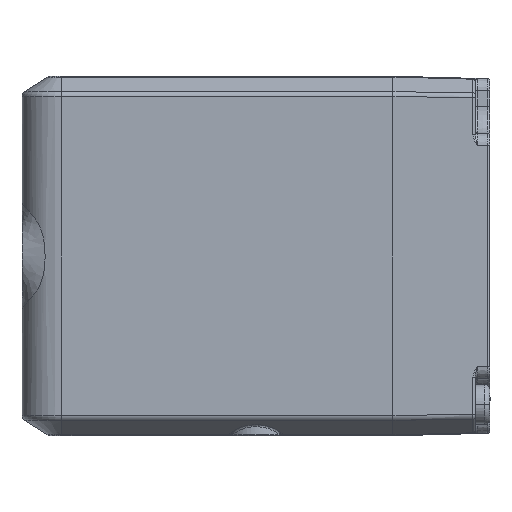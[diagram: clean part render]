
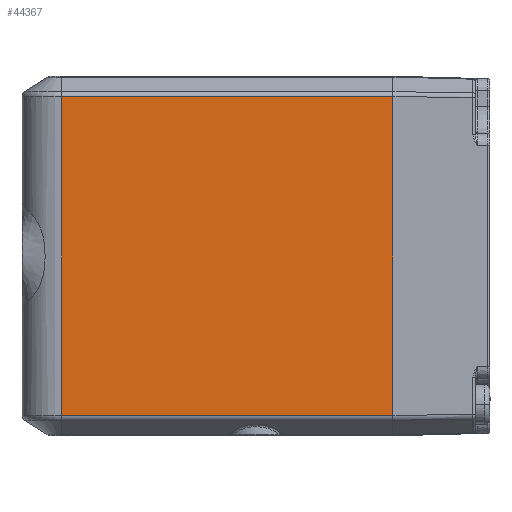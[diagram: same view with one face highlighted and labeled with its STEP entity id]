
A CAD part, left-side view. The second image highlights one B-rep face of the part: STEP entity #44367.
In plain terms, the highlighted planar face has unit normal (-1, 0, 0).
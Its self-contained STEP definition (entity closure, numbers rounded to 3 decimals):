
#6215=DIRECTION('',(0.,1.,0.));
#6216=VECTOR('',#6215,29.);
#6217=CARTESIAN_POINT('',(-25.75,8.5,
-13.973));
#6218=LINE('',#6217,#6216);
#6219=DIRECTION('',(0.,0.,1.));
#6220=VECTOR('',#6219,27.946);
#6221=CARTESIAN_POINT('',(-25.75,8.5,
-13.973));
#6222=LINE('',#6221,#6220);
#6223=DIRECTION('',(0.,0.,1.));
#6224=VECTOR('',#6223,27.946);
#6225=CARTESIAN_POINT('',(-25.75,37.5,-13.973));
#6226=LINE('',#6225,#6224);
#12935=DIRECTION('',(0.,-1.,0.));
#12936=VECTOR('',#12935,29.);
#12937=CARTESIAN_POINT('',(-25.75,37.5,13.973));
#12938=LINE('',#12937,#12936);
#30354=CARTESIAN_POINT('',(-25.75,37.5,-13.973));
#30355=VERTEX_POINT('',#30354);
#30365=CARTESIAN_POINT('',(-25.75,37.5,13.973));
#30366=VERTEX_POINT('',#30365);
#35399=CARTESIAN_POINT('',(-25.75,8.5,
-13.973));
#35400=CARTESIAN_POINT('',(-25.75,8.5,
13.973));
#35401=VERTEX_POINT('',#35399);
#35402=VERTEX_POINT('',#35400);
#44353=CARTESIAN_POINT('',(-25.75,41.,-15.75));
#44354=DIRECTION('',(-1.,0.,0.));
#44355=DIRECTION('',(0.,-1.,0.));
#44356=AXIS2_PLACEMENT_3D('',#44353,#44354,#44355);
#44357=PLANE('',#44356);
#44359=ORIENTED_EDGE('',*,*,#44358,.F.);
#44360=ORIENTED_EDGE('',*,*,#44348,.T.);
#44362=ORIENTED_EDGE('',*,*,#44361,.T.);
#44364=ORIENTED_EDGE('',*,*,#44363,.T.);
#44365=EDGE_LOOP('',(#44359,#44360,#44362,#44364));
#44366=FACE_OUTER_BOUND('',#44365,.F.);
#44367=ADVANCED_FACE('',(#44366),#44357,.T.);
#44348=EDGE_CURVE('',#35401,#30355,#6218,.T.);
#44358=EDGE_CURVE('',#35401,#35402,#6222,.T.);
#44361=EDGE_CURVE('',#30355,#30366,#6226,.T.);
#44363=EDGE_CURVE('',#30366,#35402,#12938,.T.);
